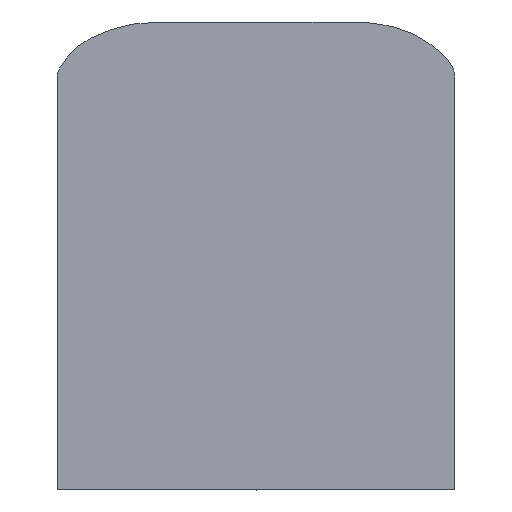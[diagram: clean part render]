
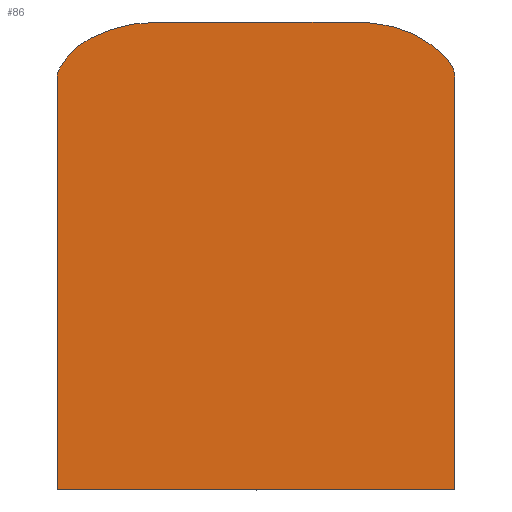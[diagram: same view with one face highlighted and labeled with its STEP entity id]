
A CAD part, top view. The second image highlights one B-rep face of the part: STEP entity #86.
In plain terms, the highlighted planar face has unit normal (0, 0, 1).
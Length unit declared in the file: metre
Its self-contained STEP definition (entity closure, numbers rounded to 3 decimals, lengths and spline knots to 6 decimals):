
#14=PLANE('',#94);
#15=LINE('',#162,#18);
#16=LINE('',#169,#19);
#17=LINE('',#220,#20);
#18=VECTOR('',#97,1.);
#19=VECTOR('',#100,1.);
#20=VECTOR('',#103,1.);
#37=ORIENTED_EDGE('',*,*,#43,.F.);
#38=ORIENTED_EDGE('',*,*,#47,.F.);
#39=ORIENTED_EDGE('',*,*,#49,.F.);
#40=ORIENTED_EDGE('',*,*,#52,.F.);
#41=ORIENTED_EDGE('',*,*,#51,.F.);
#42=ORIENTED_EDGE('',*,*,#53,.F.);
#43=EDGE_CURVE('',#54,#55,#62,.F.);
#47=EDGE_CURVE('',#58,#54,#15,.T.);
#49=EDGE_CURVE('',#59,#58,#16,.T.);
#51=EDGE_CURVE('',#60,#61,#68,.T.);
#52=EDGE_CURVE('',#61,#59,#69,.T.);
#53=EDGE_CURVE('',#55,#60,#17,.T.);
#54=VERTEX_POINT('',#145);
#55=VERTEX_POINT('',#146);
#58=VERTEX_POINT('',#161);
#59=VERTEX_POINT('',#168);
#60=VERTEX_POINT('',#207);
#61=VERTEX_POINT('',#214);
#62=B_SPLINE_CURVE_WITH_KNOTS('',3,(#139,#140,#141,#142,#143,#144),
 .UNSPECIFIED.,.F.,.F.,(4,1,1,4),(0.000247,0.019848,
0.029648,0.039449),.UNSPECIFIED.);
#68=B_SPLINE_CURVE_WITH_KNOTS('',3,(#208,#209,#210,#211,#212,#213),
 .UNSPECIFIED.,.F.,.F.,(4,1,1,4),(0.,0.000265,
0.000397,0.00053),.UNSPECIFIED.);
#69=B_SPLINE_CURVE_WITH_KNOTS('',3,(#215,#216,#217,#218),.UNSPECIFIED.,
 .F.,.F.,(4,4),(0.,0.176431),.UNSPECIFIED.);
#74=EDGE_LOOP('',(#37,#38,#39,#40,#41,#42));
#79=FACE_BOUND('',#74,.T.);
#86=ADVANCED_FACE('',(#79),#14,.T.);
#94=AXIS2_PLACEMENT_3D('',#221,#104,#105);
#97=DIRECTION('',(0.,1.,0.));
#100=DIRECTION('',(-1.,0.,0.));
#103=DIRECTION('',(1.,0.,0.));
#104=DIRECTION('',(0.,0.,1.));
#105=DIRECTION('',(1.,0.,0.));
#139=CARTESIAN_POINT('',(0.029781,0.00525,-0.03));
#140=CARTESIAN_POINT('',(0.029665,0.00525,-0.03));
#141=CARTESIAN_POINT('',(0.02951,0.005203,-0.03));
#142=CARTESIAN_POINT('',(0.029395,0.005115,-0.03));
#143=CARTESIAN_POINT('',(0.029348,0.00504,-0.03));
#144=CARTESIAN_POINT('',(0.029348,0.005014,-0.03));
#145=CARTESIAN_POINT('',(0.029348,0.005014,-0.03));
#146=CARTESIAN_POINT('',(0.029781,0.005249,-0.03));
#161=CARTESIAN_POINT('',(0.029348,0.00325,-0.03));
#162=CARTESIAN_POINT('',(0.029348,0.002625,-0.03));
#168=CARTESIAN_POINT('',(0.031048,0.00325,-0.03));
#169=CARTESIAN_POINT('',(0.031048,0.00325,-0.03));
#207=CARTESIAN_POINT('',(0.030613,0.00525,-0.03));
#208=CARTESIAN_POINT('',(0.030613,0.005249,-0.03));
#209=CARTESIAN_POINT('',(0.030702,0.00525,-0.03));
#210=CARTESIAN_POINT('',(0.030837,0.005227,-0.03));
#211=CARTESIAN_POINT('',(0.030981,0.005132,-0.03));
#212=CARTESIAN_POINT('',(0.031047,0.005059,-0.03));
#213=CARTESIAN_POINT('',(0.031048,0.005014,-0.03));
#214=CARTESIAN_POINT('',(0.031048,0.005014,-0.03));
#215=CARTESIAN_POINT('',(0.031048,0.005014,-0.03));
#216=CARTESIAN_POINT('',(0.031048,0.004426,-0.03));
#217=CARTESIAN_POINT('',(0.031048,0.003838,-0.03));
#218=CARTESIAN_POINT('',(0.031048,0.00325,-0.03));
#220=CARTESIAN_POINT('',(0.029781,0.00525,-0.03));
#221=CARTESIAN_POINT('',(0.027873,0.002625,-0.03));
